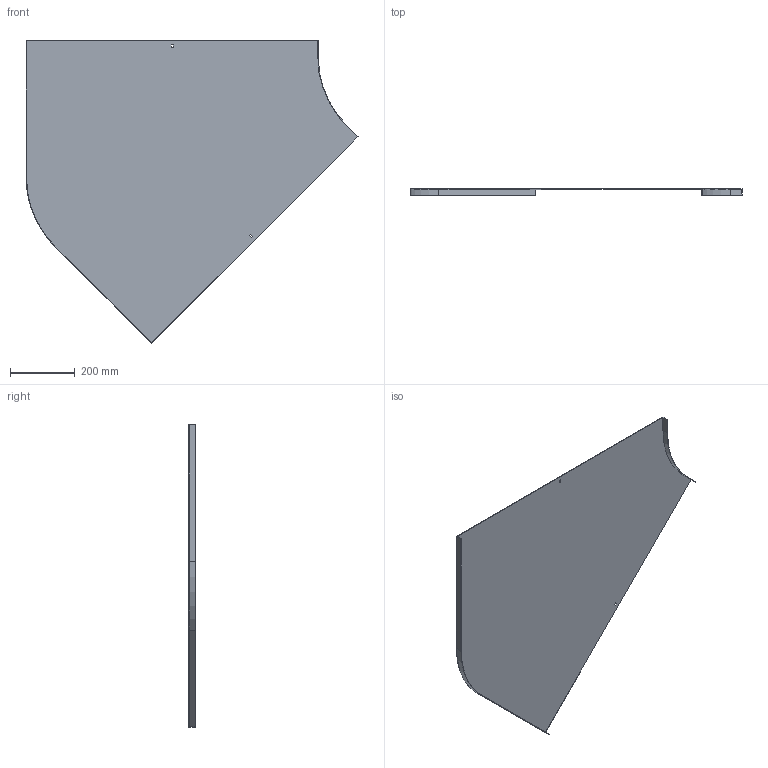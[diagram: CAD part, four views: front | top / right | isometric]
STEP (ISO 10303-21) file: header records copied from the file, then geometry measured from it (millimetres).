
FILE_DESCRIPTION (( 'STEP AP214' ), '1' );
FILE_NAME ('B2_11N3R900.step', '2025-02-21T10:51:25', ( '' ), ( '' ), 'SwSTEP 2.0', 'SolidWorks 2023', '' );
FILE_SCHEMA (( 'AUTOMOTIVE_DESIGN' ));
Length unit declared in the file: millimetre
Products named in the file (1): B2_11N3R900
Bounding box: 1025.78 x 20 x 934.94 mm (x, y, z)
Volume: 1016111.7 mm3; surface area: 1359853.8 mm2
Topology: 1 solids, 1 shells, 26 faces, 72 edges, 48 vertices
Faces by surface type: plane 22, cylinder 4
Entity records: 855 total; most frequent: CARTESIAN_POINT 147, ORIENTED_EDGE 144, DIRECTION 134, EDGE_CURVE 72, LINE 64, VECTOR 64, VERTEX_POINT 48, AXIS2_PLACEMENT_3D 35
